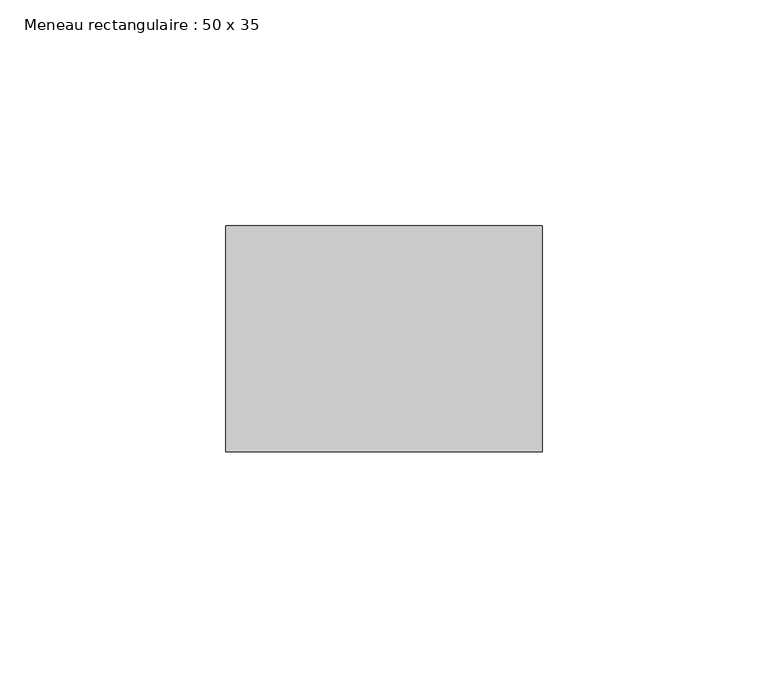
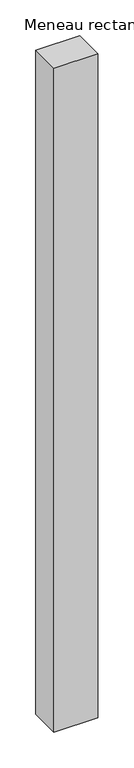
"""IFC4 building model written with IfcOpenShell, lengths in millimetres: member geometry, Meneau rectangulaire : 50 x 35."""

import ifcopenshell
import ifcopenshell.guid

model = None  # the IFC model being written
_history = None  # IfcOwnerHistory: only IFC2X3 demands one
_inside = {}  # id of a spatial element -> (the spatial element, [elements in it])
_under = {}  # id of a project, library or spatial element -> (it, [spatial elements below it])
_declared = {}  # id of a project -> (the project, [libraries it declares])
_typed = {}  # id of a type object -> (the type object, [elements of that type])
_made_of = {}  # id of a material, layer set ... -> (it, [elements and type objects made of it])


def new_model(schema):
    """Start an empty IFC model of exactly this schema.

    Asked for "IFC4X3", IfcOpenShell would pick the latest addendum, in which some entities
    have other attributes; the version numbers below select the first issue.
    IFC2X3 requires an IfcOwnerHistory on every rooted entity: one is made here for all.
    """
    global model, _history
    if schema == "IFC4X3":
        model = ifcopenshell.file(schema_version=(4, 3, 0, 0))
    else:
        model = ifcopenshell.file(schema=schema)
    _inside.clear()
    _under.clear()
    _declared.clear()
    _typed.clear()
    _made_of.clear()
    _history = None
    if model.schema == "IFC2X3":
        org = make("IfcOrganization", Name="unknown")
        user = make(
            "IfcPersonAndOrganization",
            ThePerson=make("IfcPerson", FamilyName="unknown"),
            TheOrganization=org,
        )
        app = make(
            "IfcApplication",
            ApplicationDeveloper=org,
            Version="unknown",
            ApplicationFullName="unknown",
            ApplicationIdentifier="unknown",
        )
        _history = make(
            "IfcOwnerHistory",
            OwningUser=user,
            OwningApplication=app,
            ChangeAction="ADDED",
            CreationDate=0,
        )
    return model


def make(cls, **values):
    """One entity of the class cls with the attributes given. An attribute that is None is left unset."""
    return model.create_entity(
        cls, **{name: value for name, value in values.items() if value is not None}
    )


def rooted(cls, **values):
    """An entity with a GlobalId (a new one), such as an element, a storey or a relation."""
    return make(cls, GlobalId=ifcopenshell.guid.new(), OwnerHistory=_history, **values)


def si_unit(unit_type, name, prefix=None):
    """IfcSIUnit, for example si_unit("LENGTHUNIT", "METRE", prefix="MILLI")."""
    return make("IfcSIUnit", UnitType=unit_type, Prefix=prefix, Name=name)


def assignment(units):
    """IfcUnitAssignment: the units of a project."""
    return None if units is None else make("IfcUnitAssignment", Units=units)


def point(xyz):
    """IfcCartesianPoint."""
    return None if xyz is None else make("IfcCartesianPoint", Coordinates=xyz)


def direction(xyz):
    """IfcDirection."""
    return None if xyz is None else make("IfcDirection", DirectionRatios=xyz)


def frame(location, z_axis=None, x_axis=None):
    """IfcAxis2Placement3D, a coordinate frame: its origin and axes. An axis left out is left unset."""
    return make(
        "IfcAxis2Placement3D",
        Location=point(location),
        Axis=direction(z_axis),
        RefDirection=direction(x_axis),
    )


def origin():
    """The frame at (0, 0, 0) with its axes left unset."""
    return frame((0.0, 0.0, 0.0))


def place(relative_to, where):
    """IfcLocalPlacement: puts the frame where relative to a parent placement (None: the world)."""
    return make(
        "IfcLocalPlacement", PlacementRelTo=relative_to, RelativePlacement=where
    )


def context(
    kind, dimensions, precision=None, world=None, true_north=None, identifier=None
):
    """IfcGeometricRepresentationContext, for example the 3D "Model" context."""
    return make(
        "IfcGeometricRepresentationContext",
        ContextIdentifier=identifier,
        ContextType=kind,
        CoordinateSpaceDimension=dimensions,
        Precision=precision,
        WorldCoordinateSystem=world,
        TrueNorth=true_north,
    )


def project(units=None, contexts=None):
    """IfcProject with its units and contexts."""
    return rooted(
        "IfcProject",
        Name="project",
        RepresentationContexts=contexts,
        UnitsInContext=assignment(units),
    )


def spatial(cls, under=None, at=None, **own):
    """A site, building, storey or space (cls), placed at a placement, below another one or the project."""
    s = rooted(cls, ObjectPlacement=at, **own)
    if under is not None:
        _under.setdefault(under.id(), (under, []))[1].append(s)
    return s


def polyline(points):
    """IfcPolyline through the points."""
    return make("IfcPolyline", Points=[point(p) for p in points])


def outline(outer, holes=None, kind="AREA"):
    """IfcArbitraryClosedProfileDef: a profile drawn as a closed curve; with holes, ...WithVoids."""
    if holes is None:
        return make("IfcArbitraryClosedProfileDef", ProfileType=kind, OuterCurve=outer)
    return make(
        "IfcArbitraryProfileDefWithVoids",
        ProfileType=kind,
        OuterCurve=outer,
        InnerCurves=holes,
    )


def extrude(swept, where, along, depth):
    """IfcExtrudedAreaSolid: the profile swept, set in the frame where, extruded along a direction by depth."""
    return make(
        "IfcExtrudedAreaSolid",
        SweptArea=swept,
        Position=where,
        ExtrudedDirection=direction(along),
        Depth=depth,
    )


def shape(context_of_items, identifier, shape_type, items):
    """IfcShapeRepresentation: the items that make up one representation, for example the "Body"."""
    return make(
        "IfcShapeRepresentation",
        ContextOfItems=context_of_items,
        RepresentationIdentifier=identifier,
        RepresentationType=shape_type,
        Items=items,
    )


def source(mapping_origin, context_of_items, identifier, shape_type, items):
    """IfcRepresentationMap: a shape defined once, which mapped items show again and again."""
    return make(
        "IfcRepresentationMap",
        MappingOrigin=mapping_origin,
        MappedRepresentation=shape(context_of_items, identifier, shape_type, items),
    )


def transform(
    local_origin,
    x_axis=None,
    y_axis=None,
    z_axis=None,
    scale=None,
    scale2=None,
    scale3=None,
    uniform=True,
):
    """IfcCartesianTransformationOperator3D, or its non-uniform kind. x_axis, y_axis, z_axis: its Axis1, 2, 3."""
    if uniform:
        return make(
            "IfcCartesianTransformationOperator3D",
            Axis1=direction(x_axis),
            Axis2=direction(y_axis),
            LocalOrigin=point(local_origin),
            Scale=scale,
            Axis3=direction(z_axis),
        )
    return make(
        "IfcCartesianTransformationOperator3DnonUniform",
        Axis1=direction(x_axis),
        Axis2=direction(y_axis),
        LocalOrigin=point(local_origin),
        Scale=scale,
        Axis3=direction(z_axis),
        Scale2=scale2,
        Scale3=scale3,
    )


def mapped(mapping_source, mapping_target):
    """IfcMappedItem: shows the shape of a source again, moved by a transform."""
    return make(
        "IfcMappedItem", MappingSource=mapping_source, MappingTarget=mapping_target
    )


def made_of(thing, what):
    """Note that an element or type object is made of a material, layer set ...; save() writes the relation."""
    if what is not None:
        _made_of.setdefault(what.id(), (what, []))[1].append(thing)
    return thing


def element(
    cls,
    number,
    at=None,
    inside=None,
    cuts=None,
    type_object=None,
    material=None,
    context=None,
    identifier="Body",
    shape_type=None,
    held_by="IfcProductDefinitionShape",
    body=None,
    shapes=None,
    **own,
):
    """One element of the class cls, such as IfcWall. Its Tag is "e" and its number.

    at: its placement. inside: the storey or other place that contains it. cuts: it is an
    opening in that element (IfcRelVoidsElement). A single representation is given by context,
    identifier, shape_type and body (its items); several are given by shapes. held_by: the class
    of the entity that holds the representations. save() writes the other relations.
    """
    e = rooted(cls, Tag="e%d" % number, ObjectPlacement=at, **own)
    if body is not None:
        shapes = [shape(context, identifier, shape_type, body)]
    if shapes is not None:
        e.Representation = make(held_by, Representations=shapes)
    if inside is not None:
        _inside.setdefault(inside.id(), (inside, []))[1].append(e)
    if cuts is not None:
        rooted(
            "IfcRelVoidsElement", RelatingBuildingElement=cuts, RelatedOpeningElement=e
        )
    if type_object is not None:
        _typed.setdefault(type_object.id(), (type_object, []))[1].append(e)
    return made_of(e, material)


def aggregate(whole, parts):
    """IfcRelAggregates: a whole, such as a stair, and the parts it consists of."""
    return rooted("IfcRelAggregates", RelatingObject=whole, RelatedObjects=parts)


def save(model, path):
    """Write the relations noted so far, then the file.

    IfcRelAggregates (storeys below a building ...), IfcRelContainedInSpatialStructure (elements
    in a storey), IfcRelDefinesByType, IfcRelAssociatesMaterial and IfcRelDeclares: one each for
    every whole, place, type object, material and project.
    """
    for whole, parts in _under.values():
        aggregate(whole, parts)
    for where, things in _inside.values():
        rooted(
            "IfcRelContainedInSpatialStructure",
            RelatedElements=things,
            RelatingStructure=where,
        )
    for kind, things in _typed.values():
        rooted("IfcRelDefinesByType", RelatedObjects=things, RelatingType=kind)
    for what, things in _made_of.values():
        rooted("IfcRelAssociatesMaterial", RelatedObjects=things, RelatingMaterial=what)
    for by, libraries in _declared.values():
        rooted("IfcRelDeclares", RelatingContext=by, RelatedDefinitions=libraries)
    model.write(path)


def meneau_rectangulaire_50_x_35_e0ac7c52(model_context):
    return source(origin(), model_context, "Body", "SweptSolid", [
        extrude(outline(polyline([(35.0, 0.0), (35.0, -50.0), (-35.0, -50.0), (-35.0, 0.0), (35.0, 0.0)])), frame((0.0, 0.0, -1125.7230943), z_axis=(0.0, 0.0, 1.0), x_axis=(1.0, 0.0, 0.0)), (0.0, 0.0, 1.0), 1125.7230943),
    ])


if __name__ == "__main__":
    model = new_model("IFC4")
    model_context = context("Model", 3, world=origin())
    ifc_project = project(units=[si_unit("LENGTHUNIT", "METRE", prefix="MILLI")], contexts=[model_context])
    site = spatial("IfcSite", under=ifc_project)
    building = spatial("IfcBuilding", under=site)
    placement = place(None, origin())
    meneau_rectangulaire_50_x_35_shape = meneau_rectangulaire_50_x_35_e0ac7c52(model_context)
    element("IfcMember", 1, ObjectType="Meneau rectangulaire : 50 x 35", at=placement, inside=building, context=model_context, shape_type="MappedRepresentation", body=[
        mapped(meneau_rectangulaire_50_x_35_shape, transform((0.0, 0.0, 0.0), x_axis=(1.0, 0.0, 0.0), y_axis=(0.0, 1.0, 0.0), z_axis=(0.0, 0.0, 1.0))),
    ])
    save(model, "model.ifc")
